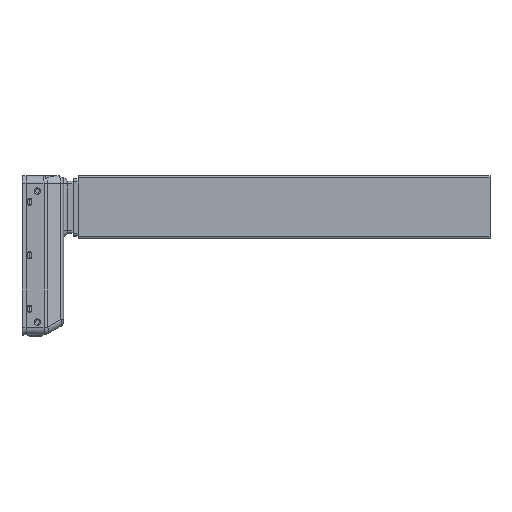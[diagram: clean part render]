
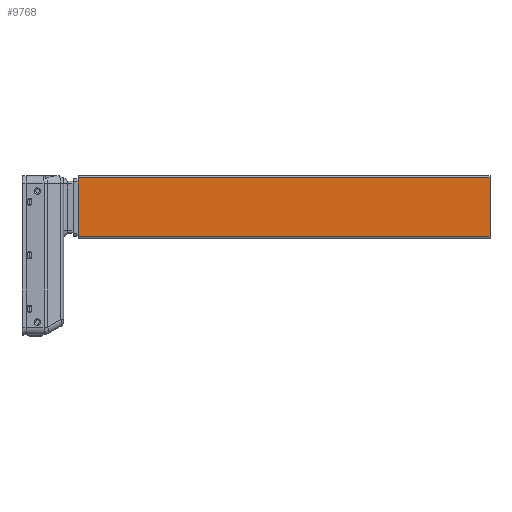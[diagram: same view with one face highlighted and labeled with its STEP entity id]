
A CAD part, left-side view. The second image highlights one B-rep face of the part: STEP entity #9768.
In plain terms, the highlighted planar face has unit normal (-1, 0, 0).
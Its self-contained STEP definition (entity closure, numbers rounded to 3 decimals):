
#581=DIRECTION('',(0.,0.,-1.));
#582=VECTOR('',#581,65.);
#583=CARTESIAN_POINT('',(-35.,-62.,26.5));
#584=LINE('',#583,#582);
#2720=DIRECTION('',(0.,0.,-1.));
#2721=VECTOR('',#2720,65.);
#2722=CARTESIAN_POINT('',(-35.,-518.,26.5));
#2723=LINE('',#2722,#2721);
#3054=DIRECTION('',(0.,1.,0.));
#3055=VECTOR('',#3054,456.);
#3056=CARTESIAN_POINT('',(-35.,-518.,26.5));
#3057=LINE('',#3056,#3055);
#3058=DIRECTION('',(0.,1.,0.));
#3059=VECTOR('',#3058,456.);
#3060=CARTESIAN_POINT('',(-35.,-518.,-38.5));
#3061=LINE('',#3060,#3059);
#3389=CARTESIAN_POINT('',(-35.,-62.,26.5));
#3391=VERTEX_POINT('',#3389);
#3394=CARTESIAN_POINT('',(-35.,-62.,-38.5));
#3396=VERTEX_POINT('',#3394);
#4108=CARTESIAN_POINT('',(-35.,-518.,26.5));
#4110=VERTEX_POINT('',#4108);
#4111=CARTESIAN_POINT('',(-35.,-518.,-38.5));
#4113=VERTEX_POINT('',#4111);
#9756=CARTESIAN_POINT('',(-35.,-557.1,29.));
#9757=DIRECTION('',(-1.,0.,0.));
#9758=DIRECTION('',(0.,0.,-1.));
#9759=AXIS2_PLACEMENT_3D('',#9756,#9757,#9758);
#9760=PLANE('',#9759);
#9762=ORIENTED_EDGE('',*,*,#9761,.F.);
#9763=ORIENTED_EDGE('',*,*,#9153,.T.);
#9764=ORIENTED_EDGE('',*,*,#9749,.T.);
#9765=ORIENTED_EDGE('',*,*,#4852,.F.);
#9766=EDGE_LOOP('',(#9762,#9763,#9764,#9765));
#9767=FACE_OUTER_BOUND('',#9766,.F.);
#4852=EDGE_CURVE('',#3391,#3396,#584,.T.);
#9153=EDGE_CURVE('',#4110,#4113,#2723,.T.);
#9749=EDGE_CURVE('',#4113,#3396,#3061,.T.);
#9761=EDGE_CURVE('',#4110,#3391,#3057,.T.);
#9768=ADVANCED_FACE('',(#9767),#9760,.T.);
